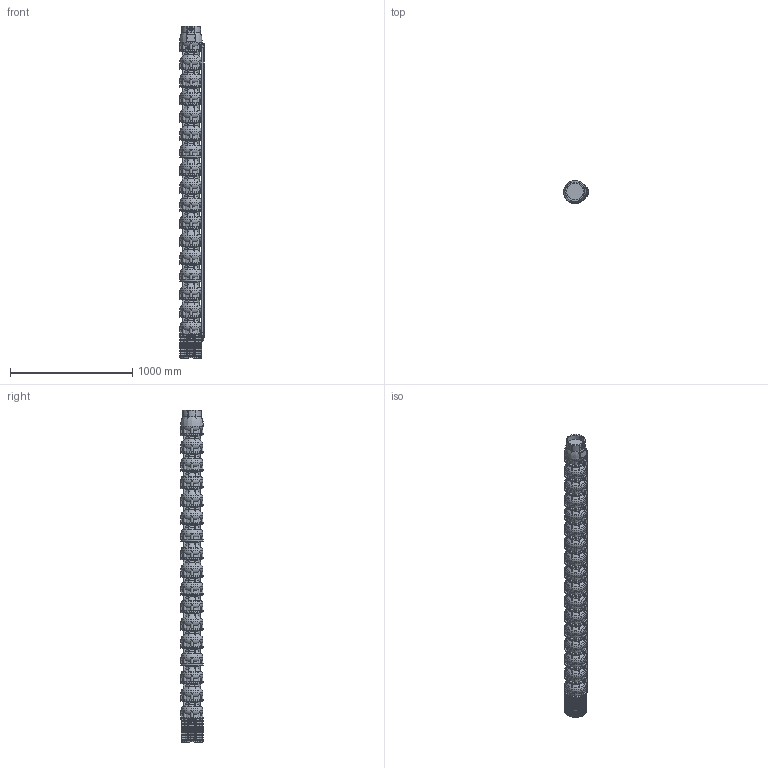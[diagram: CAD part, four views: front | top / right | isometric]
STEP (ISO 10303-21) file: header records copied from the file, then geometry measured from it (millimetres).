
FILE_DESCRIPTION(/* description */ ('Unknown'),/* implementation_level */ '2;1');
FILE_NAME(/* name */ 'VSI134-16_WR_M8-50_DLE',/* time_stamp */ '2023-09-14T14:44:33+02:00',/* author */ ('Unknown'),/* organization */ ('Unknown'),/* preprocessor_version */ 'ST-DEVELOPER v18.102',/* originating_system */ 'Solid Edge',/* authorisation */ 'Unknown');
FILE_SCHEMA (('AUTOMOTIVE_DESIGN {1 0 10303 214 3 1 1}'));
Products named in the file (11): VSI134-16_WR_M8-50_DLE; VSI134_testata; VSI134_diffusore; VSI134_supporto_8×8; VSI134_filtro_A; VSI134_filtro_B; VSI134_terminale_top_copricavo_basso; VSI134_terminale_bottom_copricavo_basso; LOW 134-16; M5X8_UNI7687; VSI134_giunto_8×8
Assembly tree (34 placements, depth 2):
  VSI134-16_WR_M8-50_DLE
    VSI134_testata
    VSI134_diffusore  x16
    VSI134_supporto_8×8
    VSI134_filtro_A
    VSI134_filtro_B
    VSI134_terminale_top_copricavo_basso
    VSI134_terminale_bottom_copricavo_basso
    LOW 134-16
    M5X8_UNI7687  x10
    VSI134_giunto_8×8
Bounding box: 201.57 x 183.52 x 2717 mm (x, y, z)
Volume: 50283023.6 mm3; surface area: 3618947.9 mm2
Topology: 73 solids, 75 shells, 5125 faces, 14481 edges, 9672 vertices
Faces by surface type: plane 3624, torus 742, cylinder 649, cone 67, bspline 31, sphere 12
Full cylindrical faces by diameter (mm): 2.4 x2, 3 x2, 4.2 x16, 5 x10, 5.5 x8, 26 x1, 44 x1, 69 x1, 74 x1, 98 x1, 135.472 x1, 157 x1, 182 x17
Entity records: 85585 total; most frequent: CARTESIAN_POINT 18367, ORIENTED_EDGE 14056, DIRECTION 13498, EDGE_CURVE 7028, VERTEX_POINT 4730, AXIS2_PLACEMENT_3D 4600, LINE 4298, VECTOR 4298
